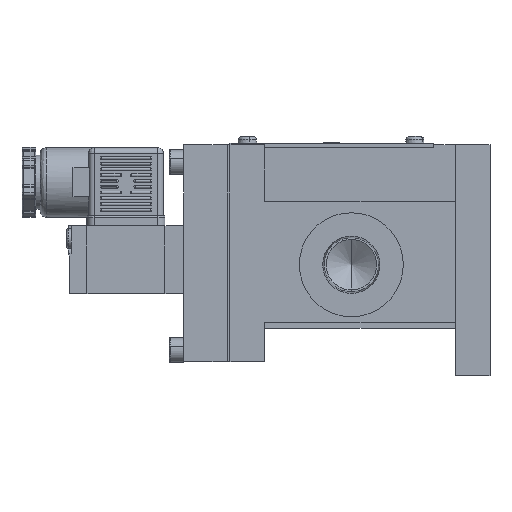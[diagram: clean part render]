
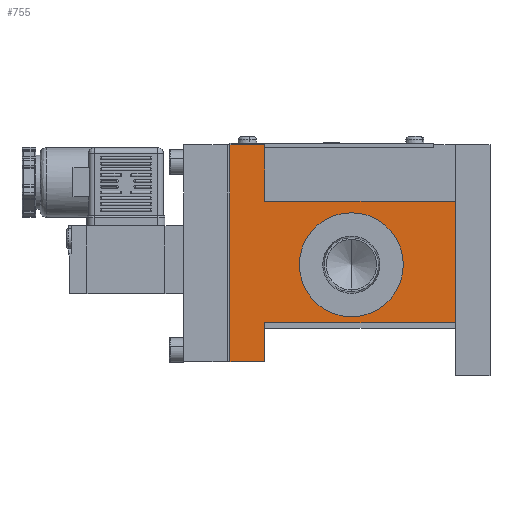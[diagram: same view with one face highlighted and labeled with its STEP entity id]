
A CAD part, left-side view. The second image highlights one B-rep face of the part: STEP entity #755.
In plain terms, the highlighted planar face has unit normal (-1, 0, 0).
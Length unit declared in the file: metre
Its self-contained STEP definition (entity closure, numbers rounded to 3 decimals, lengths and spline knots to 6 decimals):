
#247 = VECTOR ( 'NONE', #19363, 1. ) ;
#511 = VERTEX_POINT ( 'NONE', #27545 ) ;
#755 = ADVANCED_FACE ( 'NONE', ( #27550, #8872 ), #28360, .T. ) ;
#1296 = ORIENTED_EDGE ( 'NONE', *, *, #26855, .F. ) ;
#2348 = VECTOR ( 'NONE', #15785, 1. ) ;
#2609 = CARTESIAN_POINT ( 'NONE',  ( -0.0325, 0.078, 0.022 ) ) ;
#2759 = EDGE_CURVE ( 'NONE', #5298, #21280, #9153, .T. ) ;
#3592 = VERTEX_POINT ( 'NONE', #16637 ) ;
#3914 = DIRECTION ( 'NONE',  ( 0., 0., 1. ) ) ;
#3954 = CARTESIAN_POINT ( 'NONE',  ( -0.0325, 0.078, 0.004 ) ) ;
#5298 = VERTEX_POINT ( 'NONE', #12741 ) ;
#5372 = CARTESIAN_POINT ( 'NONE',  ( -0.0325, 0.012, -0.02 ) ) ;
#5517 = EDGE_CURVE ( 'NONE', #24159, #14453, #20336, .T. ) ;
#6037 = AXIS2_PLACEMENT_3D ( 'NONE', #28264, #14895, #25011 ) ;
#6072 = VERTEX_POINT ( 'NONE', #25281 ) ;
#6163 = LINE ( 'NONE', #23591, #247 ) ;
#6382 = LINE ( 'NONE', #9605, #18462 ) ;
#6561 = EDGE_CURVE ( 'NONE', #3592, #22769, #10062, .T. ) ;
#6585 = VERTEX_POINT ( 'NONE', #14155 ) ;
#7382 = VECTOR ( 'NONE', #12773, 1. ) ;
#7466 = ORIENTED_EDGE ( 'NONE', *, *, #12979, .T. ) ;
#7763 = VECTOR ( 'NONE', #27526, 1. ) ;
#7981 = ORIENTED_EDGE ( 'NONE', *, *, #18659, .T. ) ;
#8504 = DIRECTION ( 'NONE',  ( 1., 0., 0. ) ) ;
#8623 = VECTOR ( 'NONE', #17316, 1. ) ;
#8790 = CARTESIAN_POINT ( 'NONE',  ( -0.0325, 0.048, 0. ) ) ;
#8872 = FACE_OUTER_BOUND ( 'NONE', #11817, .T. ) ;
#8988 = ORIENTED_EDGE ( 'NONE', *, *, #28112, .T. ) ;
#9153 = LINE ( 'NONE', #3954, #21162 ) ;
#9605 = CARTESIAN_POINT ( 'NONE',  ( -0.0325, 0.012, -0.0385 ) ) ;
#10003 = ORIENTED_EDGE ( 'NONE', *, *, #17306, .T. ) ;
#10062 = LINE ( 'NONE', #14438, #16101 ) ;
#10464 = CARTESIAN_POINT ( 'NONE',  ( -0.0325, 0.051, -0.0335 ) ) ;
#11069 = DIRECTION ( 'NONE',  ( 0., 0., -1. ) ) ;
#11311 = ORIENTED_EDGE ( 'NONE', *, *, #6561, .T. ) ;
#11817 = EDGE_LOOP ( 'NONE', ( #11311, #7466, #28086, #10003, #1296, #20447, #12464, #8988 ) ) ;
#12464 = ORIENTED_EDGE ( 'NONE', *, *, #22744, .T. ) ;
#12741 = CARTESIAN_POINT ( 'NONE',  ( -0.0325, 0.078, -0.0335 ) ) ;
#12773 = DIRECTION ( 'NONE',  ( 0., 0., 1. ) ) ;
#12867 = CARTESIAN_POINT ( 'NONE',  ( -0.0325, 0.078, 0.004 ) ) ;
#12979 = EDGE_CURVE ( 'NONE', #22769, #5298, #14640, .T. ) ;
#13397 = LINE ( 'NONE', #12867, #7382 ) ;
#13705 = AXIS2_PLACEMENT_3D ( 'NONE', #22028, #8504, #24271 ) ;
#14155 = CARTESIAN_POINT ( 'NONE',  ( -0.0325, 0.048, 0.018 ) ) ;
#14438 = CARTESIAN_POINT ( 'NONE',  ( -0.0325, 0.09, 0.004 ) ) ;
#14453 = VERTEX_POINT ( 'NONE', #2609 ) ;
#14640 = LINE ( 'NONE', #10464, #8623 ) ;
#14895 = DIRECTION ( 'NONE',  ( -1., 0., 0. ) ) ;
#15377 = CARTESIAN_POINT ( 'NONE',  ( -0.0325, 0.012, 0.022 ) ) ;
#15785 = DIRECTION ( 'NONE',  ( 0., 1., 0. ) ) ;
#16101 = VECTOR ( 'NONE', #17035, 1. ) ;
#16262 = ORIENTED_EDGE ( 'NONE', *, *, #28638, .T. ) ;
#16363 = CARTESIAN_POINT ( 'NONE',  ( -0.0325, 0.051, 0.0415 ) ) ;
#16569 = AXIS2_PLACEMENT_3D ( 'NONE', #8790, #24529, #11069 ) ;
#16637 = CARTESIAN_POINT ( 'NONE',  ( -0.0325, 0.09, 0.0415 ) ) ;
#17035 = DIRECTION ( 'NONE',  ( 0., 0., -1. ) ) ;
#17306 = EDGE_CURVE ( 'NONE', #21280, #29129, #6163, .T. ) ;
#17316 = DIRECTION ( 'NONE',  ( 0., -1., 0. ) ) ;
#18462 = VECTOR ( 'NONE', #25343, 1. ) ;
#18659 = EDGE_CURVE ( 'NONE', #6072, #6585, #19567, .T. ) ;
#19363 = DIRECTION ( 'NONE',  ( 0., -1., 0. ) ) ;
#19567 = CIRCLE ( 'NONE', #13705, 0.018 ) ;
#20336 = LINE ( 'NONE', #15377, #2348 ) ;
#20447 = ORIENTED_EDGE ( 'NONE', *, *, #5517, .T. ) ;
#21162 = VECTOR ( 'NONE', #3914, 1. ) ;
#21280 = VERTEX_POINT ( 'NONE', #25247 ) ;
#21866 = CARTESIAN_POINT ( 'NONE',  ( -0.0325, 0.012, 0.022 ) ) ;
#22028 = CARTESIAN_POINT ( 'NONE',  ( -0.0325, 0.048, 0. ) ) ;
#22744 = EDGE_CURVE ( 'NONE', #14453, #511, #13397, .T. ) ;
#22769 = VERTEX_POINT ( 'NONE', #24182 ) ;
#23286 = CIRCLE ( 'NONE', #16569, 0.018 ) ;
#23591 = CARTESIAN_POINT ( 'NONE',  ( -0.0325, 0.012, -0.02 ) ) ;
#24159 = VERTEX_POINT ( 'NONE', #21866 ) ;
#24182 = CARTESIAN_POINT ( 'NONE',  ( -0.0325, 0.09, -0.0335 ) ) ;
#24271 = DIRECTION ( 'NONE',  ( 0., 0., -1. ) ) ;
#24529 = DIRECTION ( 'NONE',  ( 1., 0., 0. ) ) ;
#24537 = EDGE_LOOP ( 'NONE', ( #7981, #16262 ) ) ;
#25011 = DIRECTION ( 'NONE',  ( 0., 0., 1. ) ) ;
#25247 = CARTESIAN_POINT ( 'NONE',  ( -0.0325, 0.078, -0.02 ) ) ;
#25281 = CARTESIAN_POINT ( 'NONE',  ( -0.0325, 0.048, -0.018 ) ) ;
#25343 = DIRECTION ( 'NONE',  ( 0., 0., -1. ) ) ;
#25745 = LINE ( 'NONE', #16363, #7763 ) ;
#26855 = EDGE_CURVE ( 'NONE', #24159, #29129, #6382, .T. ) ;
#27526 = DIRECTION ( 'NONE',  ( 0., 1., 0. ) ) ;
#27545 = CARTESIAN_POINT ( 'NONE',  ( -0.0325, 0.078, 0.0415 ) ) ;
#27550 = FACE_BOUND ( 'NONE', #24537, .T. ) ;
#28086 = ORIENTED_EDGE ( 'NONE', *, *, #2759, .T. ) ;
#28112 = EDGE_CURVE ( 'NONE', #511, #3592, #25745, .T. ) ;
#28264 = CARTESIAN_POINT ( 'NONE',  ( -0.0325, 0.012, -0.0335 ) ) ;
#28360 = PLANE ( 'NONE',  #6037 ) ;
#28638 = EDGE_CURVE ( 'NONE', #6585, #6072, #23286, .T. ) ;
#29129 = VERTEX_POINT ( 'NONE', #5372 ) ;
